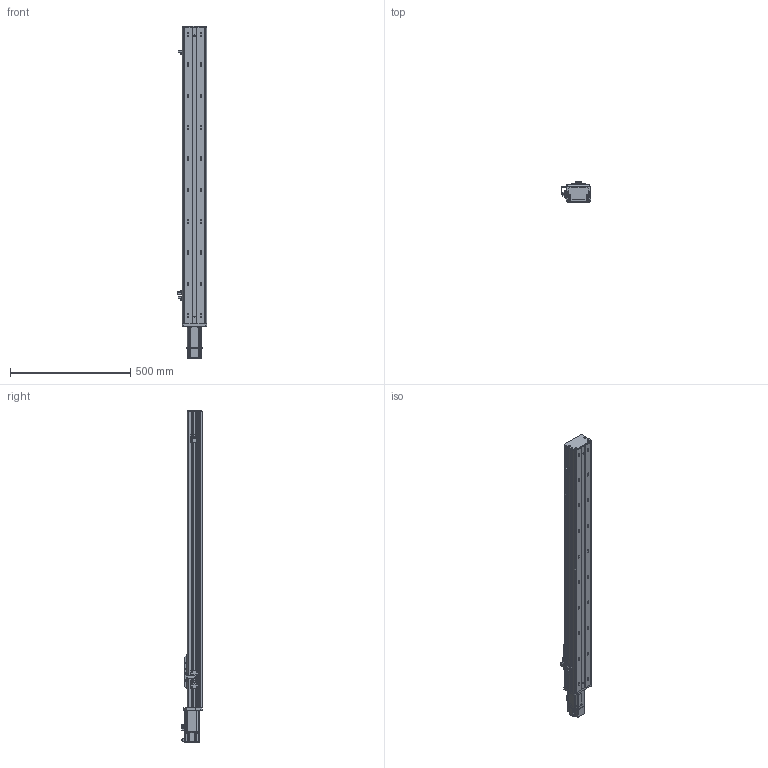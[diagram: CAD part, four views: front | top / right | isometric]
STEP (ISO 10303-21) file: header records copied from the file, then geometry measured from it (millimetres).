
FILE_DESCRIPTION (( 'STEP AP203' ), '1' );
FILE_NAME ('BOSW100-1000-1610-1P-CM-M400W-O-S3（方程式2016）.step', '2020-10-10T06:38:06', ( '' ), ( '' ), 'SwSTEP 2.0', 'SolidWorks 2016', '' );
FILE_SCHEMA (( 'CONFIG_CONTROL_DESIGN' ));
Length unit declared in the file: millimetre
Products named in the file (13): BOSW-100-CM-宽轨-三菱M200W&400W马达板(新结构); 新结构AIMSW-100-1P-宽&高轨共用-滑动座上组件; BOSW-100-綴裔啣; BOSW100-1000-1610-1P-CM-M400W-O-S3（方程式2016）; S400W(SMA-L040); BOSW&TW-100-俋离覜茼え; BOSW-100-1P-CM-宽轨-钢带-1000客户图纸; BOSW&TW-100-詩湍揤沭(陔賦凳); 俋境嫖覜嘐隅啣; 放大器内置U型微型光电传感器PM-L65; BOSW&TW-100-1P-賑雄釱欶; BOSW-100-1P-CM-宽轨-侧板-1000客户图纸; BOSW-100-1P-CM-1000諦誧芞
Assembly tree (18 placements, depth 2):
  BOSW100-1000-1610-1P-CM-M400W-O-S3（方程式2016）
    BOSW-100-1P-CM-1000諦誧芞
    BOSW-100-綴裔啣
    新结构AIMSW-100-1P-宽&高轨共用-滑动座上组件
    S400W(SMA-L040)
    BOSW&TW-100-詩湍揤沭(陔賦凳)  x2
    BOSW&TW-100-1P-賑雄釱欶
    BOSW&TW-100-俋离覜茼え
    俋境嫖覜嘐隅啣  x3
    放大器内置U型微型光电传感器PM-L65  x3
    BOSW-100-CM-宽轨-三菱M200W&400W马达板(新结构)
    BOSW-100-1P-CM-宽轨-侧板-1000客户图纸  x2
    BOSW-100-1P-CM-宽轨-钢带-1000客户图纸
Bounding box: 120.9 x 85.5 x 1377.8 mm (x, y, z)
Volume: 2679515 mm3; surface area: 1193042.1 mm2
Topology: 18 solids, 18 shells, 2551 faces, 6744 edges, 4305 vertices
Faces by surface type: plane 1230, cylinder 837, bspline 271, cone 165, torus 36, sphere 12
Entity records: 70204 total; most frequent: CARTESIAN_POINT 20990, ORIENTED_EDGE 10028, DIRECTION 9764, EDGE_CURVE 5014, AXIS2_PLACEMENT_3D 3498, VERTEX_POINT 3207, VECTOR 2768, LINE 2768
